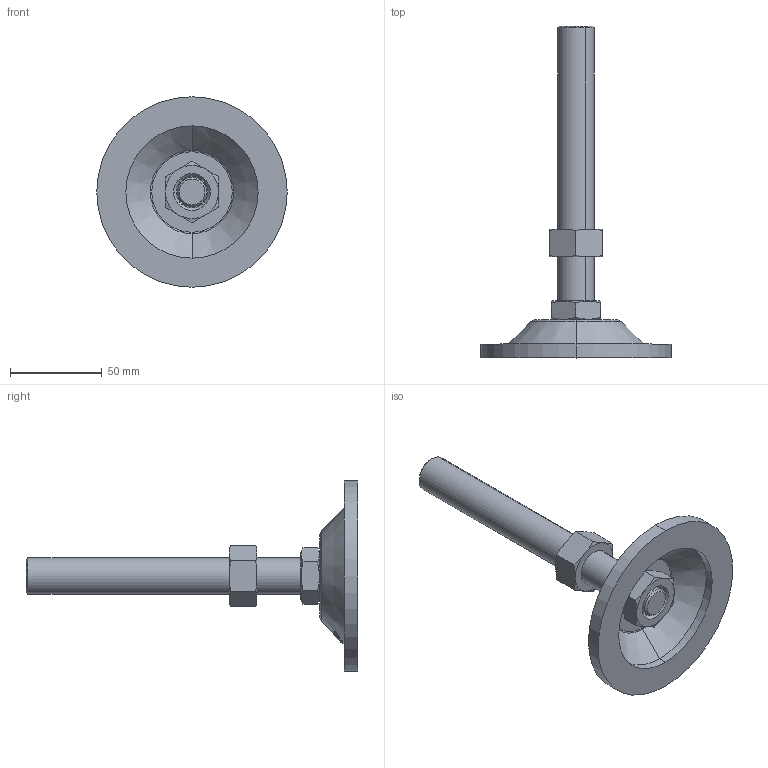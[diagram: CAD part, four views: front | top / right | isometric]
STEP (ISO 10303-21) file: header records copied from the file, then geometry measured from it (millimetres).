
FILE_DESCRIPTION (( 'STEP AP203' ), '1' );
FILE_NAME ('P-104-20150-BR .STEP', '2020-09-10T08:59:39', ( '' ), ( '' ), 'SwSTEP 2.0', 'SolidWorks 2016', '' );
FILE_SCHEMA (( 'CONFIG_CONTROL_DESIGN' ));
Length unit declared in the file: millimetre
Products named in the file (5): 傲郈蹟裝M20炵蹈_M20X150; 脚垫锁紧六角薄螺母M20; P-104-20150-BR ; 脚垫调节六角螺母M20; P-104-1菁釱-3P
Assembly tree (4 placements, depth 2):
  P-104-20150-BR 
    P-104-1菁釱-3P
    傲郈蹟裝M20炵蹈_M20X150
    脚垫锁紧六角薄螺母M20
    脚垫调节六角螺母M20
Bounding box: 104 x 181.2 x 104 mm (x, y, z)
Volume: 114663.7 mm3; surface area: 53726.9 mm2
Topology: 5 solids, 5 shells, 165 faces, 378 edges, 234 vertices
Faces by surface type: cone 57, bspline 38, plane 34, cylinder 20, torus 16
Entity records: 9387 total; most frequent: CARTESIAN_POINT 5514, ORIENTED_EDGE 756, DIRECTION 586, EDGE_CURVE 378, AXIS2_PLACEMENT_3D 260, VERTEX_POINT 234, B_SPLINE_CURVE_WITH_KNOTS 186, EDGE_LOOP 184
